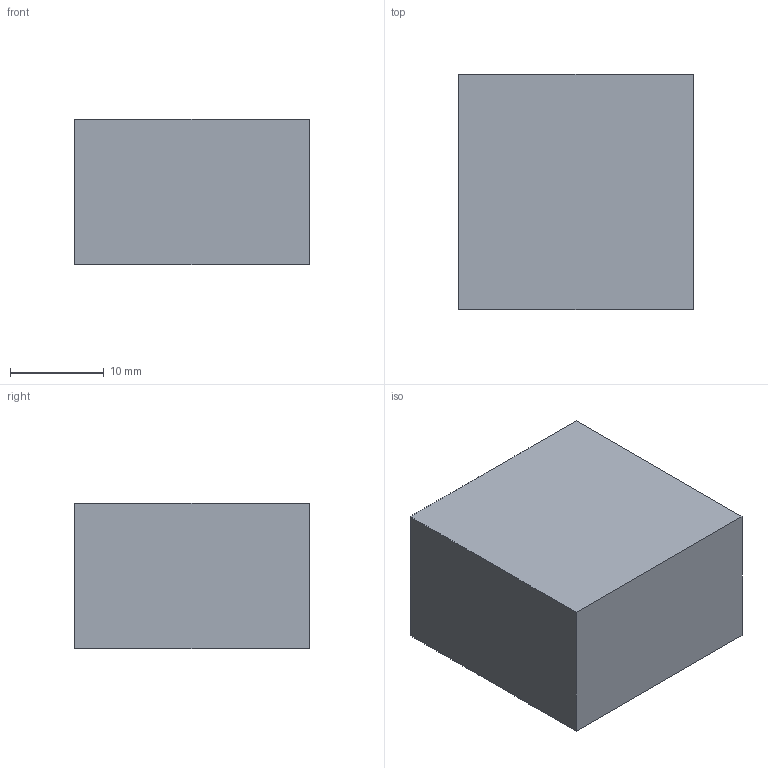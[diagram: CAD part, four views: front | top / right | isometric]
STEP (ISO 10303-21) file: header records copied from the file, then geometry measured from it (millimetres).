
FILE_DESCRIPTION (( 'STEP AP203' ), '1' );
FILE_NAME ('FT15ES02.STEP', '2026-06-26T01:10:25', ( 'USER' ), ( '' ), 'SwSTEP 2.0', 'SolidWorks 2023', '' );
FILE_SCHEMA (( 'CONFIG_CONTROL_DESIGN' ));
Length unit declared in the file: millimetre
Products named in the file (1): FT15ES02
Bounding box: 25 x 25 x 15.5 mm (x, y, z)
Volume: 8390.7 mm3; surface area: 3385.5 mm2
Topology: 1 solids, 1 shells, 32 faces, 66 edges, 42 vertices
Faces by surface type: cylinder 12, plane 12, cone 8
Entity records: 933 total; most frequent: DIRECTION 166, CARTESIAN_POINT 141, ORIENTED_EDGE 132, AXIS2_PLACEMENT_3D 67, EDGE_CURVE 66, VERTEX_POINT 42, EDGE_LOOP 38, CIRCLE 34
